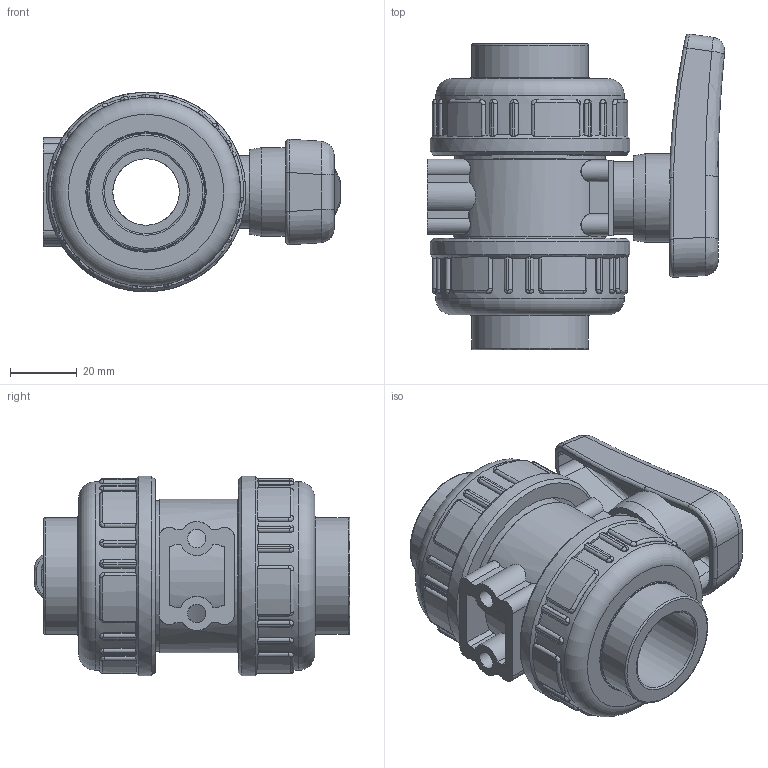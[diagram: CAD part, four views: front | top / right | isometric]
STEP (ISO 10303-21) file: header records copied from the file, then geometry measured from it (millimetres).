
FILE_DESCRIPTION(/* description */ (''),/* implementation_level */ '2;1');
FILE_NAME(/* name */ 'C:\Users\POLYPIPE\Desktop\DATASET INVENTOR\LIBRERIA EFFAST\3D_VALVOLE\3D_VALVOLE A SFERA\3D_BK1\3D_BDRBK1D\3D_BDRBK1D0250.stp',/* time_stamp */ '2018-01-23T15:26:20+01:00',/* author */ ('POLYPIPE'),/* organization */ (''),/* preprocessor_version */ 'ST-DEVELOPER v16.1',/* originating_system */ 'Autodesk Inventor 2016',/* authorisation */ '');
FILE_SCHEMA (('CONFIG_CONTROL_DESIGN'));
Length unit declared in the file: centimetre
Products named in the file (1): 3D_BDRBK1D0250
Bounding box: 89.31 x 94.87 x 60 mm (x, y, z)
Volume: 157689.5 mm3; surface area: 57781.5 mm2
Topology: 3 solids, 4 shells, 589 faces, 1509 edges, 951 vertices
Faces by surface type: cylinder 195, plane 193, bspline 172, torus 24, cone 5
Full cylindrical faces by diameter (mm): 2.5 x4, 5.5 x2, 13.9 x1, 20 x2, 20.2 x1, 21.8 x1, 25 x2, 26.6 x1, 35.1 x2, 35.7 x2, 36.2 x2, 42.75 x2, 45.15 x2, 46.15 x1, 48.3 x2, 56.7 x2, 60 x2
Entity records: 63283 total; most frequent: CARTESIAN_POINT 49500, ORIENTED_EDGE 2898, DIRECTION 2418, EDGE_CURVE 1447, VERTEX_POINT 935, AXIS2_PLACEMENT_3D 927, EDGE_LOOP 666, STYLED_ITEM 592
